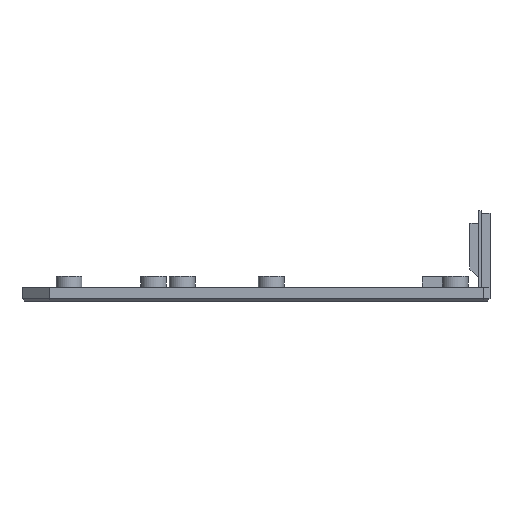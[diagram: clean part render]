
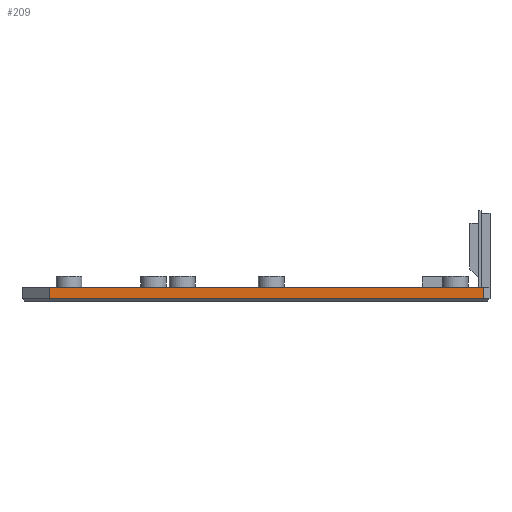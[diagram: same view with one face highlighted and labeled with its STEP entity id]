
A CAD part, left-side view. The second image highlights one B-rep face of the part: STEP entity #209.
In plain terms, the highlighted planar face has unit normal (-1, 0, 0).
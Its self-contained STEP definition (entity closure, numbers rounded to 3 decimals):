
#44 = PLANE('',#45);
#45 = AXIS2_PLACEMENT_3D('',#46,#47,#48);
#46 = CARTESIAN_POINT('',(-54.375,77.55,4.6));
#47 = DIRECTION('',(0.,0.,1.));
#48 = DIRECTION('',(0.499,-0.867,0.));
#121 = PLANE('',#122);
#122 = AXIS2_PLACEMENT_3D('',#123,#124,#125);
#123 = CARTESIAN_POINT('',(-63.375,68.55,0.85));
#124 = DIRECTION('',(-0.707,0.707,0.)
  );
#125 = DIRECTION('',(0.707,0.707,0.)
  );
#136 = VERTEX_POINT('',#137);
#137 = CARTESIAN_POINT('',(-63.375,68.55,4.6));
#160 = VERTEX_POINT('',#161);
#161 = CARTESIAN_POINT('',(-63.375,68.55,0.85));
#187 = EDGE_CURVE('',#136,#160,#188,.T.);
#188 = SURFACE_CURVE('',#189,(#192,#198),.PCURVE_S1.);
#189 = B_SPLINE_CURVE_WITH_KNOTS('',1,(#190,#191),.UNSPECIFIED.,.F.,.F.,
  (2,2),(0.,1.),.PIECEWISE_BEZIER_KNOTS.);
#190 = CARTESIAN_POINT('',(-63.375,68.55,4.6));
#191 = CARTESIAN_POINT('',(-63.375,68.55,0.85));
#192 = PCURVE('',#121,#193);
#193 = DEFINITIONAL_REPRESENTATION('',(#194),#197);
#194 = B_SPLINE_CURVE_WITH_KNOTS('',1,(#195,#196),.UNSPECIFIED.,.F.,.F.,
  (2,2),(0.,1.),.PIECEWISE_BEZIER_KNOTS.);
#195 = CARTESIAN_POINT('',(0.,-3.75));
#196 = CARTESIAN_POINT('',(0.,0.));
#197 = ( GEOMETRIC_REPRESENTATION_CONTEXT(2) 
PARAMETRIC_REPRESENTATION_CONTEXT() REPRESENTATION_CONTEXT('2D SPACE',''
  ) );
#198 = PCURVE('',#199,#204);
#199 = PLANE('',#200);
#200 = AXIS2_PLACEMENT_3D('',#201,#202,#203);
#201 = CARTESIAN_POINT('',(-63.375,-75.55,0.85));
#202 = DIRECTION('',(-1.,-0.,0.));
#203 = DIRECTION('',(0.,1.,0.));
#204 = DEFINITIONAL_REPRESENTATION('',(#205),#208);
#205 = B_SPLINE_CURVE_WITH_KNOTS('',1,(#206,#207),.UNSPECIFIED.,.F.,.F.,
  (2,2),(0.,1.),.PIECEWISE_BEZIER_KNOTS.);
#206 = CARTESIAN_POINT('',(144.1,-3.75));
#207 = CARTESIAN_POINT('',(144.1,0.));
#208 = ( GEOMETRIC_REPRESENTATION_CONTEXT(2) 
PARAMETRIC_REPRESENTATION_CONTEXT() REPRESENTATION_CONTEXT('2D SPACE',''
  ) );
#209 = ADVANCED_FACE('',(#210),#199,.T.);
#210 = FACE_BOUND('',#211,.T.);
#211 = EDGE_LOOP('',(#212,#235,#236,#264));
#212 = ORIENTED_EDGE('',*,*,#213,.T.);
#213 = EDGE_CURVE('',#214,#136,#216,.T.);
#214 = VERTEX_POINT('',#215);
#215 = CARTESIAN_POINT('',(-63.375,-75.55,4.6));
#216 = SURFACE_CURVE('',#217,(#221,#228),.PCURVE_S1.);
#217 = LINE('',#218,#219);
#218 = CARTESIAN_POINT('',(-63.375,-75.55,4.6));
#219 = VECTOR('',#220,1.);
#220 = DIRECTION('',(0.,1.,0.));
#221 = PCURVE('',#199,#222);
#222 = DEFINITIONAL_REPRESENTATION('',(#223),#227);
#223 = LINE('',#224,#225);
#224 = CARTESIAN_POINT('',(0.,-3.75));
#225 = VECTOR('',#226,1.);
#226 = DIRECTION('',(1.,0.));
#227 = ( GEOMETRIC_REPRESENTATION_CONTEXT(2) 
PARAMETRIC_REPRESENTATION_CONTEXT() REPRESENTATION_CONTEXT('2D SPACE',''
  ) );
#228 = PCURVE('',#44,#229);
#229 = DEFINITIONAL_REPRESENTATION('',(#230),#234);
#230 = LINE('',#231,#232);
#231 = CARTESIAN_POINT('',(128.196,-84.18));
#232 = VECTOR('',#233,1.);
#233 = DIRECTION('',(-0.867,0.499));
#234 = ( GEOMETRIC_REPRESENTATION_CONTEXT(2) 
PARAMETRIC_REPRESENTATION_CONTEXT() REPRESENTATION_CONTEXT('2D SPACE',''
  ) );
#235 = ORIENTED_EDGE('',*,*,#187,.T.);
#236 = ORIENTED_EDGE('',*,*,#237,.F.);
#237 = EDGE_CURVE('',#238,#160,#240,.T.);
#238 = VERTEX_POINT('',#239);
#239 = CARTESIAN_POINT('',(-63.375,-75.55,0.85));
#240 = SURFACE_CURVE('',#241,(#245,#252),.PCURVE_S1.);
#241 = LINE('',#242,#243);
#242 = CARTESIAN_POINT('',(-63.375,-75.55,0.85));
#243 = VECTOR('',#244,1.);
#244 = DIRECTION('',(0.,1.,0.));
#245 = PCURVE('',#199,#246);
#246 = DEFINITIONAL_REPRESENTATION('',(#247),#251);
#247 = LINE('',#248,#249);
#248 = CARTESIAN_POINT('',(0.,0.));
#249 = VECTOR('',#250,1.);
#250 = DIRECTION('',(1.,0.));
#251 = ( GEOMETRIC_REPRESENTATION_CONTEXT(2) 
PARAMETRIC_REPRESENTATION_CONTEXT() REPRESENTATION_CONTEXT('2D SPACE',''
  ) );
#252 = PCURVE('',#253,#258);
#253 = B_SPLINE_SURFACE_WITH_KNOTS('',1,1,(
    (#254,#255)
    ,(#256,#257
    )),.UNSPECIFIED.,.F.,.F.,.F.,(2,2),(2,2),(0.,144.1),(0.,1.),
  .PIECEWISE_BEZIER_KNOTS.);
#254 = CARTESIAN_POINT('',(-63.375,-75.55,0.85));
#255 = CARTESIAN_POINT('',(-62.525,-75.198,
    0.));
#256 = CARTESIAN_POINT('',(-63.375,68.55,0.85));
#257 = CARTESIAN_POINT('',(-62.525,68.198,
    0.));
#258 = DEFINITIONAL_REPRESENTATION('',(#259),#263);
#259 = LINE('',#260,#261);
#260 = CARTESIAN_POINT('',(0.,0.));
#261 = VECTOR('',#262,1.);
#262 = DIRECTION('',(1.,0.));
#263 = ( GEOMETRIC_REPRESENTATION_CONTEXT(2) 
PARAMETRIC_REPRESENTATION_CONTEXT() REPRESENTATION_CONTEXT('2D SPACE',''
  ) );
#264 = ORIENTED_EDGE('',*,*,#265,.F.);
#265 = EDGE_CURVE('',#214,#238,#266,.T.);
#266 = SURFACE_CURVE('',#267,(#270,#276),.PCURVE_S1.);
#267 = B_SPLINE_CURVE_WITH_KNOTS('',1,(#268,#269),.UNSPECIFIED.,.F.,.F.,
  (2,2),(0.,1.),.PIECEWISE_BEZIER_KNOTS.);
#268 = CARTESIAN_POINT('',(-63.375,-75.55,4.6));
#269 = CARTESIAN_POINT('',(-63.375,-75.55,0.85));
#270 = PCURVE('',#199,#271);
#271 = DEFINITIONAL_REPRESENTATION('',(#272),#275);
#272 = B_SPLINE_CURVE_WITH_KNOTS('',1,(#273,#274),.UNSPECIFIED.,.F.,.F.,
  (2,2),(0.,1.),.PIECEWISE_BEZIER_KNOTS.);
#273 = CARTESIAN_POINT('',(0.,-3.75));
#274 = CARTESIAN_POINT('',(0.,0.));
#275 = ( GEOMETRIC_REPRESENTATION_CONTEXT(2) 
PARAMETRIC_REPRESENTATION_CONTEXT() REPRESENTATION_CONTEXT('2D SPACE',''
  ) );
#276 = PCURVE('',#277,#282);
#277 = PLANE('',#278);
#278 = AXIS2_PLACEMENT_3D('',#279,#280,#281);
#279 = CARTESIAN_POINT('',(-61.375,-77.55,0.85));
#280 = DIRECTION('',(-0.707,-0.707,0.)
  );
#281 = DIRECTION('',(-0.707,0.707,0.)
  );
#282 = DEFINITIONAL_REPRESENTATION('',(#283),#286);
#283 = B_SPLINE_CURVE_WITH_KNOTS('',1,(#284,#285),.UNSPECIFIED.,.F.,.F.,
  (2,2),(0.,1.),.PIECEWISE_BEZIER_KNOTS.);
#284 = CARTESIAN_POINT('',(2.828,-3.75));
#285 = CARTESIAN_POINT('',(2.828,0.));
#286 = ( GEOMETRIC_REPRESENTATION_CONTEXT(2) 
PARAMETRIC_REPRESENTATION_CONTEXT() REPRESENTATION_CONTEXT('2D SPACE',''
  ) );
